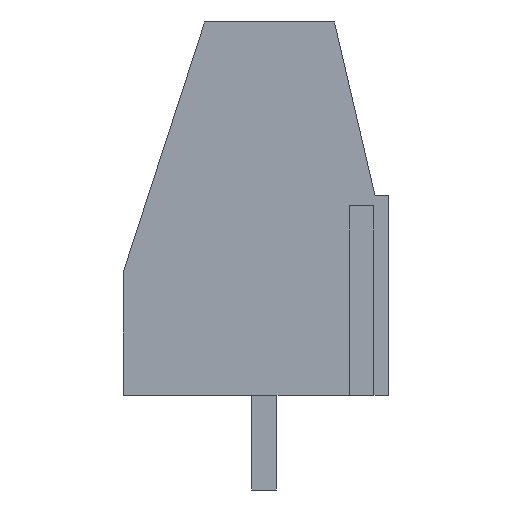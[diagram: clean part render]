
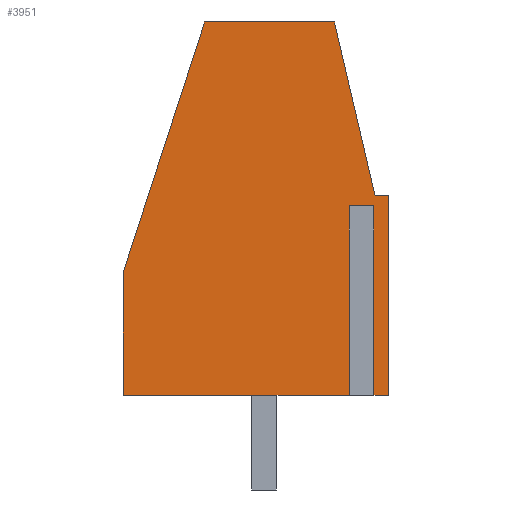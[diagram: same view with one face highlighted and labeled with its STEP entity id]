
A CAD part, left-side view. The second image highlights one B-rep face of the part: STEP entity #3951.
In plain terms, the highlighted planar face has unit normal (-1, 0, 0).
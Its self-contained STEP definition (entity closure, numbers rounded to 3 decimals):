
#3783 = EDGE_CURVE('',#3784,#3786,#3788,.T.);
#3784 = VERTEX_POINT('',#3785);
#3785 = CARTESIAN_POINT('',(-2.5,-4.6,0.));
#3786 = VERTEX_POINT('',#3787);
#3787 = CARTESIAN_POINT('',(-2.5,-3.83,0.));
#3788 = LINE('',#3789,#3790);
#3789 = CARTESIAN_POINT('',(-2.5,-4.6,0.));
#3790 = VECTOR('',#3791,1.);
#3791 = DIRECTION('',(0.,1.,0.));
#3842 = VERTEX_POINT('',#3843);
#3843 = CARTESIAN_POINT('',(-2.5,5.2,0.));
#3849 = EDGE_CURVE('',#3850,#3842,#3852,.T.);
#3850 = VERTEX_POINT('',#3851);
#3851 = CARTESIAN_POINT('',(-2.5,-3.37,0.));
#3852 = LINE('',#3853,#3854);
#3853 = CARTESIAN_POINT('',(-2.5,-4.6,0.));
#3854 = VECTOR('',#3855,1.);
#3855 = DIRECTION('',(0.,1.,0.));
#3951 = ADVANCED_FACE('',(#3952),#4024,.F.);
#3952 = FACE_BOUND('',#3953,.F.);
#3953 = EDGE_LOOP('',(#3954,#3964,#3972,#3978,#3979,#3987,#3995,#4001,
    #4002,#4010,#4018));
#3954 = ORIENTED_EDGE('',*,*,#3955,.T.);
#3955 = EDGE_CURVE('',#3956,#3958,#3960,.T.);
#3956 = VERTEX_POINT('',#3957);
#3957 = CARTESIAN_POINT('',(-2.5,-2.6,13.8));
#3958 = VERTEX_POINT('',#3959);
#3959 = CARTESIAN_POINT('',(-2.5,-4.1,7.4));
#3960 = LINE('',#3961,#3962);
#3961 = CARTESIAN_POINT('',(-2.5,-2.6,13.8));
#3962 = VECTOR('',#3963,1.);
#3963 = DIRECTION('',(0.,-0.228,-0.974));
#3964 = ORIENTED_EDGE('',*,*,#3965,.T.);
#3965 = EDGE_CURVE('',#3958,#3966,#3968,.T.);
#3966 = VERTEX_POINT('',#3967);
#3967 = CARTESIAN_POINT('',(-2.5,-4.6,7.4));
#3968 = LINE('',#3969,#3970);
#3969 = CARTESIAN_POINT('',(-2.5,-4.1,7.4));
#3970 = VECTOR('',#3971,1.);
#3971 = DIRECTION('',(0.,-1.,0.));
#3972 = ORIENTED_EDGE('',*,*,#3973,.T.);
#3973 = EDGE_CURVE('',#3966,#3784,#3974,.T.);
#3974 = LINE('',#3975,#3976);
#3975 = CARTESIAN_POINT('',(-2.5,-4.6,13.8));
#3976 = VECTOR('',#3977,1.);
#3977 = DIRECTION('',(0.,0.,-1.));
#3978 = ORIENTED_EDGE('',*,*,#3783,.T.);
#3979 = ORIENTED_EDGE('',*,*,#3980,.T.);
#3980 = EDGE_CURVE('',#3786,#3981,#3983,.T.);
#3981 = VERTEX_POINT('',#3982);
#3982 = CARTESIAN_POINT('',(-2.5,-3.83,7.));
#3983 = LINE('',#3984,#3985);
#3984 = CARTESIAN_POINT('',(-2.5,-3.83,0.));
#3985 = VECTOR('',#3986,1.);
#3986 = DIRECTION('',(0.,0.,1.));
#3987 = ORIENTED_EDGE('',*,*,#3988,.T.);
#3988 = EDGE_CURVE('',#3981,#3989,#3991,.T.);
#3989 = VERTEX_POINT('',#3990);
#3990 = CARTESIAN_POINT('',(-2.5,-3.37,7.));
#3991 = LINE('',#3992,#3993);
#3992 = CARTESIAN_POINT('',(-2.5,-3.83,7.));
#3993 = VECTOR('',#3994,1.);
#3994 = DIRECTION('',(0.,1.,0.));
#3995 = ORIENTED_EDGE('',*,*,#3996,.F.);
#3996 = EDGE_CURVE('',#3850,#3989,#3997,.T.);
#3997 = LINE('',#3998,#3999);
#3998 = CARTESIAN_POINT('',(-2.5,-3.37,0.));
#3999 = VECTOR('',#4000,1.);
#4000 = DIRECTION('',(0.,0.,1.));
#4001 = ORIENTED_EDGE('',*,*,#3849,.T.);
#4002 = ORIENTED_EDGE('',*,*,#4003,.T.);
#4003 = EDGE_CURVE('',#3842,#4004,#4006,.T.);
#4004 = VERTEX_POINT('',#4005);
#4005 = CARTESIAN_POINT('',(-2.5,5.2,4.57));
#4006 = LINE('',#4007,#4008);
#4007 = CARTESIAN_POINT('',(-2.5,5.2,0.));
#4008 = VECTOR('',#4009,1.);
#4009 = DIRECTION('',(0.,0.,1.));
#4010 = ORIENTED_EDGE('',*,*,#4011,.F.);
#4011 = EDGE_CURVE('',#4012,#4004,#4014,.T.);
#4012 = VERTEX_POINT('',#4013);
#4013 = CARTESIAN_POINT('',(-2.5,2.2,13.8));
#4014 = LINE('',#4015,#4016);
#4015 = CARTESIAN_POINT('',(-2.5,2.2,13.8));
#4016 = VECTOR('',#4017,1.);
#4017 = DIRECTION('',(0.,0.309,-0.951));
#4018 = ORIENTED_EDGE('',*,*,#4019,.T.);
#4019 = EDGE_CURVE('',#4012,#3956,#4020,.T.);
#4020 = LINE('',#4021,#4022);
#4021 = CARTESIAN_POINT('',(-2.5,5.2,13.8));
#4022 = VECTOR('',#4023,1.);
#4023 = DIRECTION('',(0.,-1.,0.));
#4024 = PLANE('',#4025);
#4025 = AXIS2_PLACEMENT_3D('',#4026,#4027,#4028);
#4026 = CARTESIAN_POINT('',(-2.5,0.3,6.9));
#4027 = DIRECTION('',(1.,0.,0.));
#4028 = DIRECTION('',(-0.,0.,1.));
